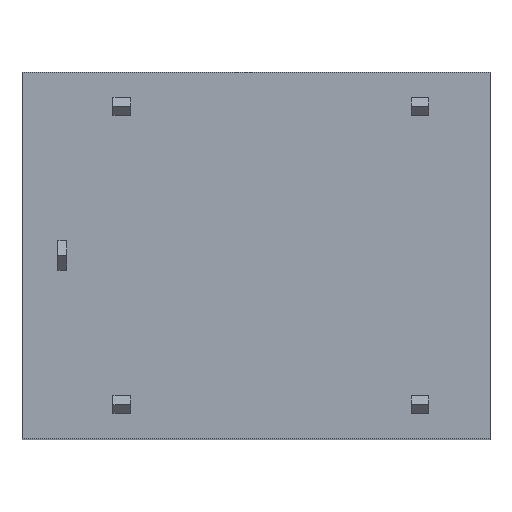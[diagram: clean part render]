
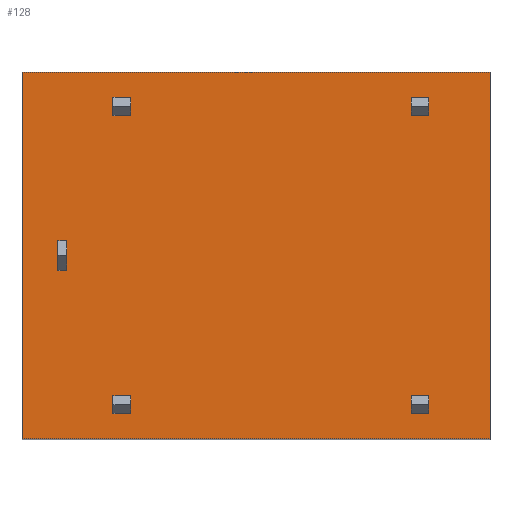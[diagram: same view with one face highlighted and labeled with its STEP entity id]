
A CAD part, top view. The second image highlights one B-rep face of the part: STEP entity #128.
In plain terms, the highlighted planar face has unit normal (0, 0, 1).
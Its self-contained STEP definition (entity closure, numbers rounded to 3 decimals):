
#22 = VERTEX_POINT('',#23);
#23 = CARTESIAN_POINT('',(1.2,5.65,14.));
#56 = VERTEX_POINT('',#57);
#57 = CARTESIAN_POINT('',(1.2,6.65,14.));
#63 = EDGE_CURVE('',#22,#56,#64,.T.);
#64 = LINE('',#65,#66);
#65 = CARTESIAN_POINT('',(1.2,5.65,14.));
#66 = VECTOR('',#67,1.);
#67 = DIRECTION('',(0.,1.,0.));
#78 = VERTEX_POINT('',#79);
#79 = CARTESIAN_POINT('',(1.5,5.65,14.));
#94 = EDGE_CURVE('',#78,#22,#95,.T.);
#95 = LINE('',#96,#97);
#96 = CARTESIAN_POINT('',(1.5,5.65,14.));
#97 = VECTOR('',#98,1.);
#98 = DIRECTION('',(-1.,0.,0.));
#128 = ADVANCED_FACE('',(#129,#163,#197,#231,#265,#299),#317,.T.);
#129 = FACE_BOUND('',#130,.T.);
#130 = EDGE_LOOP('',(#131,#141,#149,#157));
#131 = ORIENTED_EDGE('',*,*,#132,.T.);
#132 = EDGE_CURVE('',#133,#135,#137,.T.);
#133 = VERTEX_POINT('',#134);
#134 = CARTESIAN_POINT('',(0.,0.,14.));
#135 = VERTEX_POINT('',#136);
#136 = CARTESIAN_POINT('',(15.7,0.,14.));
#137 = LINE('',#138,#139);
#138 = CARTESIAN_POINT('',(0.,0.,14.));
#139 = VECTOR('',#140,1.);
#140 = DIRECTION('',(1.,0.,0.));
#141 = ORIENTED_EDGE('',*,*,#142,.T.);
#142 = EDGE_CURVE('',#135,#143,#145,.T.);
#143 = VERTEX_POINT('',#144);
#144 = CARTESIAN_POINT('',(15.7,12.3,14.));
#145 = LINE('',#146,#147);
#146 = CARTESIAN_POINT('',(15.7,0.,14.));
#147 = VECTOR('',#148,1.);
#148 = DIRECTION('',(0.,1.,0.));
#149 = ORIENTED_EDGE('',*,*,#150,.T.);
#150 = EDGE_CURVE('',#143,#151,#153,.T.);
#151 = VERTEX_POINT('',#152);
#152 = CARTESIAN_POINT('',(0.,12.3,14.));
#153 = LINE('',#154,#155);
#154 = CARTESIAN_POINT('',(15.7,12.3,14.));
#155 = VECTOR('',#156,1.);
#156 = DIRECTION('',(-1.,0.,0.));
#157 = ORIENTED_EDGE('',*,*,#158,.T.);
#158 = EDGE_CURVE('',#151,#133,#159,.T.);
#159 = LINE('',#160,#161);
#160 = CARTESIAN_POINT('',(0.,12.3,14.));
#161 = VECTOR('',#162,1.);
#162 = DIRECTION('',(0.,-1.,0.));
#163 = FACE_BOUND('',#164,.T.);
#164 = EDGE_LOOP('',(#165,#175,#183,#191));
#165 = ORIENTED_EDGE('',*,*,#166,.T.);
#166 = EDGE_CURVE('',#167,#169,#171,.T.);
#167 = VERTEX_POINT('',#168);
#168 = CARTESIAN_POINT('',(13.05,10.85,14.));
#169 = VERTEX_POINT('',#170);
#170 = CARTESIAN_POINT('',(13.05,11.45,14.));
#171 = LINE('',#172,#173);
#172 = CARTESIAN_POINT('',(13.05,10.85,14.));
#173 = VECTOR('',#174,1.);
#174 = DIRECTION('',(0.,1.,0.));
#175 = ORIENTED_EDGE('',*,*,#176,.T.);
#176 = EDGE_CURVE('',#169,#177,#179,.T.);
#177 = VERTEX_POINT('',#178);
#178 = CARTESIAN_POINT('',(13.65,11.45,14.));
#179 = LINE('',#180,#181);
#180 = CARTESIAN_POINT('',(13.05,11.45,14.));
#181 = VECTOR('',#182,1.);
#182 = DIRECTION('',(1.,0.,0.));
#183 = ORIENTED_EDGE('',*,*,#184,.T.);
#184 = EDGE_CURVE('',#177,#185,#187,.T.);
#185 = VERTEX_POINT('',#186);
#186 = CARTESIAN_POINT('',(13.65,10.85,14.));
#187 = LINE('',#188,#189);
#188 = CARTESIAN_POINT('',(13.65,11.45,14.));
#189 = VECTOR('',#190,1.);
#190 = DIRECTION('',(0.,-1.,0.));
#191 = ORIENTED_EDGE('',*,*,#192,.T.);
#192 = EDGE_CURVE('',#185,#167,#193,.T.);
#193 = LINE('',#194,#195);
#194 = CARTESIAN_POINT('',(13.65,10.85,14.));
#195 = VECTOR('',#196,1.);
#196 = DIRECTION('',(-1.,0.,0.));
#197 = FACE_BOUND('',#198,.T.);
#198 = EDGE_LOOP('',(#199,#209,#217,#225));
#199 = ORIENTED_EDGE('',*,*,#200,.T.);
#200 = EDGE_CURVE('',#201,#203,#205,.T.);
#201 = VERTEX_POINT('',#202);
#202 = CARTESIAN_POINT('',(13.05,0.85,14.));
#203 = VERTEX_POINT('',#204);
#204 = CARTESIAN_POINT('',(13.05,1.45,14.));
#205 = LINE('',#206,#207);
#206 = CARTESIAN_POINT('',(13.05,0.85,14.));
#207 = VECTOR('',#208,1.);
#208 = DIRECTION('',(0.,1.,0.));
#209 = ORIENTED_EDGE('',*,*,#210,.T.);
#210 = EDGE_CURVE('',#203,#211,#213,.T.);
#211 = VERTEX_POINT('',#212);
#212 = CARTESIAN_POINT('',(13.65,1.45,14.));
#213 = LINE('',#214,#215);
#214 = CARTESIAN_POINT('',(13.05,1.45,14.));
#215 = VECTOR('',#216,1.);
#216 = DIRECTION('',(1.,0.,0.));
#217 = ORIENTED_EDGE('',*,*,#218,.T.);
#218 = EDGE_CURVE('',#211,#219,#221,.T.);
#219 = VERTEX_POINT('',#220);
#220 = CARTESIAN_POINT('',(13.65,0.85,14.));
#221 = LINE('',#222,#223);
#222 = CARTESIAN_POINT('',(13.65,1.45,14.));
#223 = VECTOR('',#224,1.);
#224 = DIRECTION('',(0.,-1.,0.));
#225 = ORIENTED_EDGE('',*,*,#226,.T.);
#226 = EDGE_CURVE('',#219,#201,#227,.T.);
#227 = LINE('',#228,#229);
#228 = CARTESIAN_POINT('',(13.65,0.85,14.));
#229 = VECTOR('',#230,1.);
#230 = DIRECTION('',(-1.,0.,0.));
#231 = FACE_BOUND('',#232,.T.);
#232 = EDGE_LOOP('',(#233,#243,#251,#259));
#233 = ORIENTED_EDGE('',*,*,#234,.F.);
#234 = EDGE_CURVE('',#235,#237,#239,.T.);
#235 = VERTEX_POINT('',#236);
#236 = CARTESIAN_POINT('',(3.05,0.85,14.));
#237 = VERTEX_POINT('',#238);
#238 = CARTESIAN_POINT('',(3.65,0.85,14.));
#239 = LINE('',#240,#241);
#240 = CARTESIAN_POINT('',(3.05,0.85,14.));
#241 = VECTOR('',#242,1.);
#242 = DIRECTION('',(1.,0.,0.));
#243 = ORIENTED_EDGE('',*,*,#244,.F.);
#244 = EDGE_CURVE('',#245,#235,#247,.T.);
#245 = VERTEX_POINT('',#246);
#246 = CARTESIAN_POINT('',(3.05,1.45,14.));
#247 = LINE('',#248,#249);
#248 = CARTESIAN_POINT('',(3.05,1.45,14.));
#249 = VECTOR('',#250,1.);
#250 = DIRECTION('',(0.,-1.,0.));
#251 = ORIENTED_EDGE('',*,*,#252,.F.);
#252 = EDGE_CURVE('',#253,#245,#255,.T.);
#253 = VERTEX_POINT('',#254);
#254 = CARTESIAN_POINT('',(3.65,1.45,14.));
#255 = LINE('',#256,#257);
#256 = CARTESIAN_POINT('',(3.65,1.45,14.));
#257 = VECTOR('',#258,1.);
#258 = DIRECTION('',(-1.,0.,0.));
#259 = ORIENTED_EDGE('',*,*,#260,.F.);
#260 = EDGE_CURVE('',#237,#253,#261,.T.);
#261 = LINE('',#262,#263);
#262 = CARTESIAN_POINT('',(3.65,0.85,14.));
#263 = VECTOR('',#264,1.);
#264 = DIRECTION('',(0.,1.,0.));
#265 = FACE_BOUND('',#266,.T.);
#266 = EDGE_LOOP('',(#267,#277,#285,#293));
#267 = ORIENTED_EDGE('',*,*,#268,.T.);
#268 = EDGE_CURVE('',#269,#271,#273,.T.);
#269 = VERTEX_POINT('',#270);
#270 = CARTESIAN_POINT('',(3.05,10.85,14.));
#271 = VERTEX_POINT('',#272);
#272 = CARTESIAN_POINT('',(3.05,11.45,14.));
#273 = LINE('',#274,#275);
#274 = CARTESIAN_POINT('',(3.05,10.85,14.));
#275 = VECTOR('',#276,1.);
#276 = DIRECTION('',(0.,1.,0.));
#277 = ORIENTED_EDGE('',*,*,#278,.T.);
#278 = EDGE_CURVE('',#271,#279,#281,.T.);
#279 = VERTEX_POINT('',#280);
#280 = CARTESIAN_POINT('',(3.65,11.45,14.));
#281 = LINE('',#282,#283);
#282 = CARTESIAN_POINT('',(3.05,11.45,14.));
#283 = VECTOR('',#284,1.);
#284 = DIRECTION('',(1.,0.,0.));
#285 = ORIENTED_EDGE('',*,*,#286,.T.);
#286 = EDGE_CURVE('',#279,#287,#289,.T.);
#287 = VERTEX_POINT('',#288);
#288 = CARTESIAN_POINT('',(3.65,10.85,14.));
#289 = LINE('',#290,#291);
#290 = CARTESIAN_POINT('',(3.65,11.45,14.));
#291 = VECTOR('',#292,1.);
#292 = DIRECTION('',(0.,-1.,0.));
#293 = ORIENTED_EDGE('',*,*,#294,.T.);
#294 = EDGE_CURVE('',#287,#269,#295,.T.);
#295 = LINE('',#296,#297);
#296 = CARTESIAN_POINT('',(3.65,10.85,14.));
#297 = VECTOR('',#298,1.);
#298 = DIRECTION('',(-1.,0.,0.));
#299 = FACE_BOUND('',#300,.T.);
#300 = EDGE_LOOP('',(#301,#302,#310,#316));
#301 = ORIENTED_EDGE('',*,*,#63,.T.);
#302 = ORIENTED_EDGE('',*,*,#303,.T.);
#303 = EDGE_CURVE('',#56,#304,#306,.T.);
#304 = VERTEX_POINT('',#305);
#305 = CARTESIAN_POINT('',(1.5,6.65,14.));
#306 = LINE('',#307,#308);
#307 = CARTESIAN_POINT('',(1.2,6.65,14.));
#308 = VECTOR('',#309,1.);
#309 = DIRECTION('',(1.,0.,0.));
#310 = ORIENTED_EDGE('',*,*,#311,.T.);
#311 = EDGE_CURVE('',#304,#78,#312,.T.);
#312 = LINE('',#313,#314);
#313 = CARTESIAN_POINT('',(1.5,6.65,14.));
#314 = VECTOR('',#315,1.);
#315 = DIRECTION('',(0.,-1.,0.));
#316 = ORIENTED_EDGE('',*,*,#94,.T.);
#317 = PLANE('',#318);
#318 = AXIS2_PLACEMENT_3D('',#319,#320,#321);
#319 = CARTESIAN_POINT('',(7.85,6.15,14.));
#320 = DIRECTION('',(0.,0.,1.));
#321 = DIRECTION('',(1.,0.,0.));
